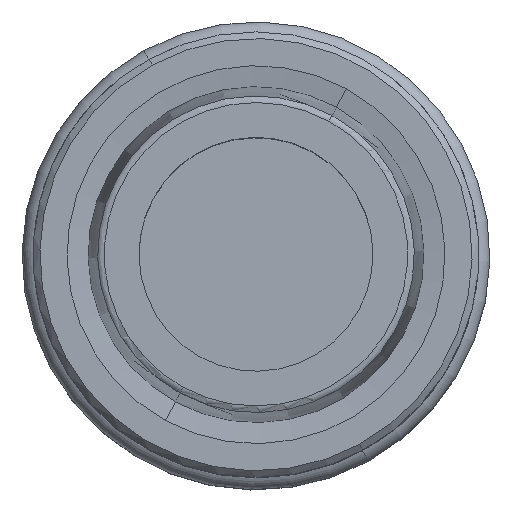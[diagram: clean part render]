
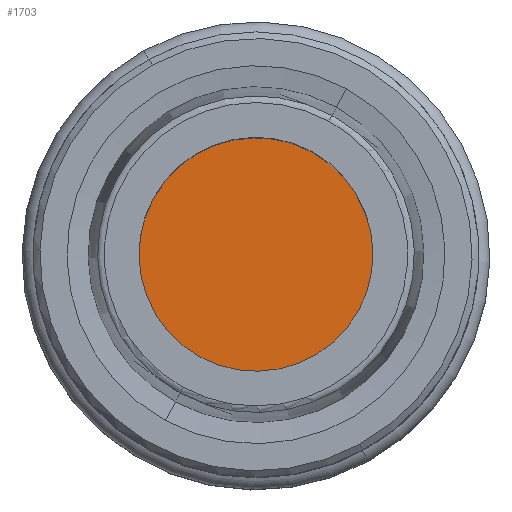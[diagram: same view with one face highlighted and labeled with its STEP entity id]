
A CAD part, top view. The second image highlights one B-rep face of the part: STEP entity #1703.
In plain terms, the highlighted planar face has unit normal (0, 0, 1).
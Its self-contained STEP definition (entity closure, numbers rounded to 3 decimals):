
#1683=AXIS2_PLACEMENT_3D('Plane Axis2P3D',#1680,#1681,#1682) ;
#1687=AXIS2_PLACEMENT_3D('Circle Axis2P3D',#1685,#1686,$) ;
#1696=AXIS2_PLACEMENT_3D('Circle Axis2P3D',#1694,#1695,$) ;
#1680=CARTESIAN_POINT('Axis2P3D Location',(0.,0.,-8.)) ;
#1685=CARTESIAN_POINT('Axis2P3D Location',(0.,0.,-8.)) ;
#1689=CARTESIAN_POINT('Vertex',(-5.034,-9.215,-8.)) ;
#1691=CARTESIAN_POINT('Vertex',(5.034,9.215,-8.)) ;
#1694=CARTESIAN_POINT('Axis2P3D Location',(0.,0.,-8.)) ;
#1681=DIRECTION('Axis2P3D Direction',(0.,0.,1.)) ;
#1682=DIRECTION('Axis2P3D XDirection',(1.,0.,0.)) ;
#1686=DIRECTION('Axis2P3D Direction',(0.,0.,1.)) ;
#1695=DIRECTION('Axis2P3D Direction',(0.,0.,1.)) ;
#1700=ORIENTED_EDGE('',*,*,#1693,.T.) ;
#1701=ORIENTED_EDGE('',*,*,#1698,.T.) ;
#1703=ADVANCED_FACE('NOCUT',(#1702),#1684,.T.) ;
#1688=CIRCLE('generated circle',#1687,10.5) ;
#1697=CIRCLE('generated circle',#1696,10.5) ;
#1693=EDGE_CURVE('',#1690,#1692,#1688,.T.) ;
#1698=EDGE_CURVE('',#1692,#1690,#1697,.T.) ;
#1699=EDGE_LOOP('',(#1700,#1701)) ;
#1702=FACE_OUTER_BOUND('',#1699,.T.) ;
#1684=PLANE('',#1683) ;
#1690=VERTEX_POINT('',#1689) ;
#1692=VERTEX_POINT('',#1691) ;
